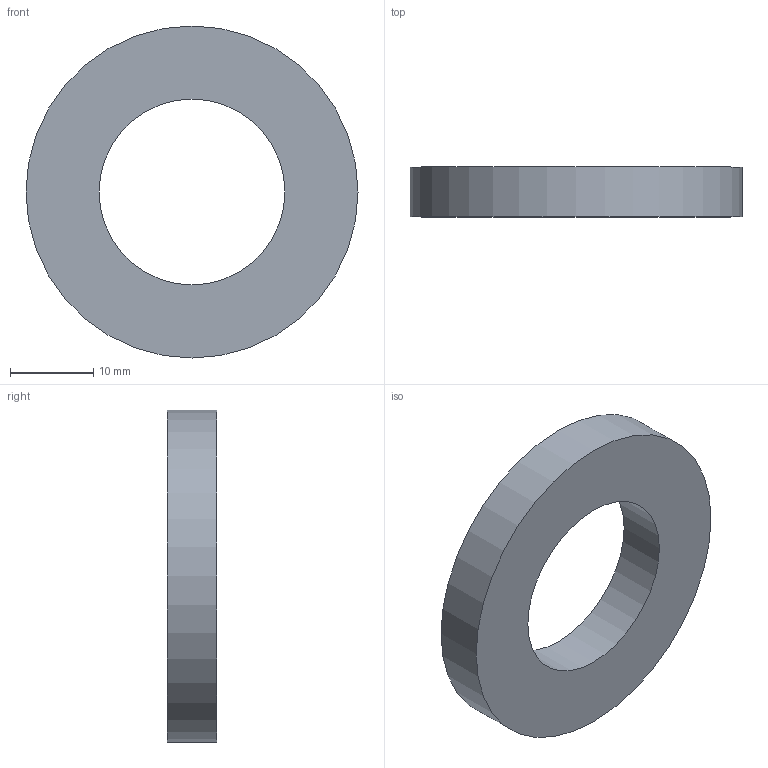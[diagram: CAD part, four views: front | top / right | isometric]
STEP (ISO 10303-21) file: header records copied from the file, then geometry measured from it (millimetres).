
FILE_DESCRIPTION(('Open CASCADE Model'),'2;1');
FILE_NAME('Open CASCADE Shape Model','2026-10-04T01:02:30',('Author'),( 'Open CASCADE'),'Open CASCADE STEP processor 8.0','Open CASCADE 8.0' ,'Unknown');
FILE_SCHEMA(('AUTOMOTIVE_DESIGN { 1 0 10303 214 1 1 1 1 }'));
Length unit declared in the file: millimetre
Products named in the file (1): Open CASCADE STEP translator 8.0 252
Bounding box: 40 x 6 x 40 mm (x, y, z)
Volume: 5175.3 mm3; surface area: 2901.3 mm2
Topology: 1 solids, 1 shells, 4 faces, 6 edges, 4 vertices
Faces by surface type: cylinder 2, plane 2
Full cylindrical faces by diameter (mm): 22.4 x1, 40 x1
Entity records: 186 total; most frequent: DIRECTION 32, CARTESIAN_POINT 27, ORIENTED_EDGE 12, PCURVE 12, DEFINITIONAL_REPRESENTATION 12, LINE 10, VECTOR 10, AXIS2_PLACEMENT_3D 9
